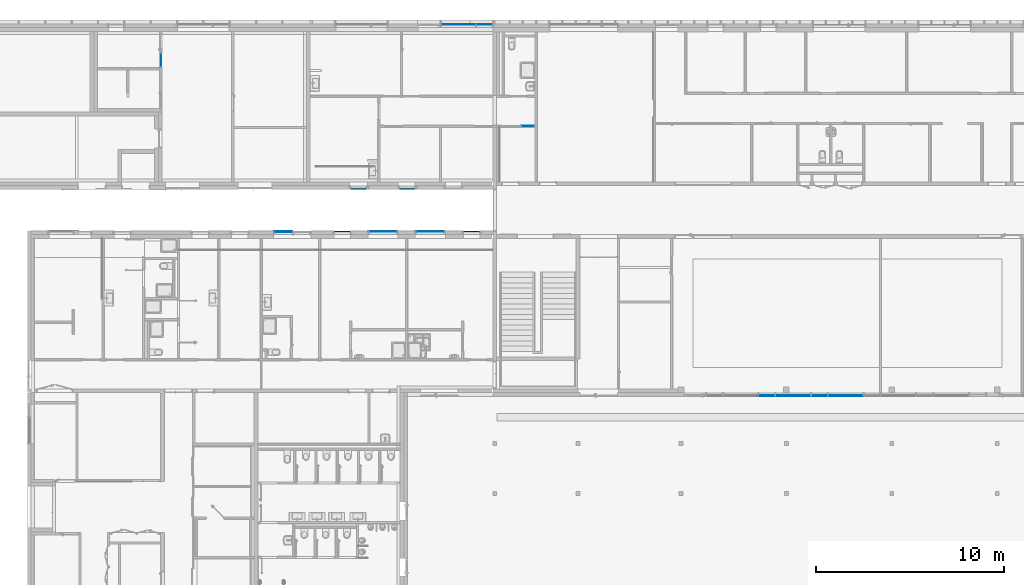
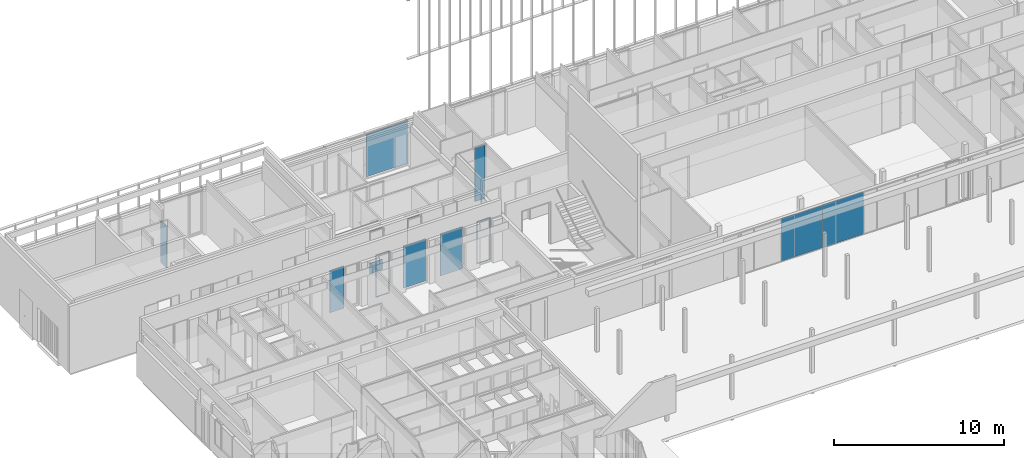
# One storey, part 61 of 240: 12 plates, 11 elements without a shape of their own.
"""IFC2X3 building model written with IfcOpenShell, lengths in centimetres."""

import ifcopenshell
import ifcopenshell.guid

model = None  # the IFC model being written
_history = None  # IfcOwnerHistory: only IFC2X3 demands one
_inside = {}  # id of a spatial element -> (the spatial element, [elements in it])
_under = {}  # id of a project, library or spatial element -> (it, [spatial elements below it])
_declared = {}  # id of a project -> (the project, [libraries it declares])
_typed = {}  # id of a type object -> (the type object, [elements of that type])
_made_of = {}  # id of a material, layer set ... -> (it, [elements and type objects made of it])


def new_model(schema):
    """Start an empty IFC model of exactly this schema.

    Asked for "IFC4X3", IfcOpenShell would pick the latest addendum, in which some entities
    have other attributes; the version numbers below select the first issue.
    IFC2X3 requires an IfcOwnerHistory on every rooted entity: one is made here for all.
    """
    global model, _history
    if schema == "IFC4X3":
        model = ifcopenshell.file(schema_version=(4, 3, 0, 0))
    else:
        model = ifcopenshell.file(schema=schema)
    _inside.clear()
    _under.clear()
    _declared.clear()
    _typed.clear()
    _made_of.clear()
    _history = None
    if model.schema == "IFC2X3":
        org = make("IfcOrganization", Name="unknown")
        user = make(
            "IfcPersonAndOrganization",
            ThePerson=make("IfcPerson", FamilyName="unknown"),
            TheOrganization=org,
        )
        app = make(
            "IfcApplication",
            ApplicationDeveloper=org,
            Version="unknown",
            ApplicationFullName="unknown",
            ApplicationIdentifier="unknown",
        )
        _history = make(
            "IfcOwnerHistory",
            OwningUser=user,
            OwningApplication=app,
            ChangeAction="ADDED",
            CreationDate=0,
        )
    return model


def make(cls, **values):
    """One entity of the class cls with the attributes given. An attribute that is None is left unset."""
    return model.create_entity(
        cls, **{name: value for name, value in values.items() if value is not None}
    )


def entity(cls, *values):
    """Any entity or typed value of the class cls, its attributes in the order of the schema. None: left unset."""
    e = model.create_entity(cls)
    for i, value in enumerate(values):
        if value is not None:
            e[i] = value
    return e


def rooted(cls, **values):
    """An entity with a GlobalId (a new one), such as an element, a storey or a relation."""
    return make(cls, GlobalId=ifcopenshell.guid.new(), OwnerHistory=_history, **values)


def si_unit(unit_type, name, prefix=None):
    """IfcSIUnit, for example si_unit("LENGTHUNIT", "METRE", prefix="MILLI")."""
    return make("IfcSIUnit", UnitType=unit_type, Prefix=prefix, Name=name)


def converted_unit(unit_type, name, factor, base, dimensions=None, offset=None):
    """IfcConversionBasedUnit, such as the inch: factor (a typed value) times the base unit."""
    return make(
        "IfcConversionBasedUnit"
        if offset is None
        else "IfcConversionBasedUnitWithOffset",
        ConversionOffset=offset,
        Dimensions=None
        if dimensions is None
        else entity("IfcDimensionalExponents", *dimensions),
        UnitType=unit_type,
        Name=name,
        ConversionFactor=make(
            "IfcMeasureWithUnit", ValueComponent=factor, UnitComponent=base
        ),
    )


def derived_unit(unit_type, elements):
    """IfcDerivedUnit: a product of units, each with its exponent."""
    return make(
        "IfcDerivedUnit",
        Elements=[
            make("IfcDerivedUnitElement", Unit=unit, Exponent=power)
            for unit, power in elements
        ],
        UnitType=unit_type,
    )


def assignment(units):
    """IfcUnitAssignment: the units of a project."""
    return None if units is None else make("IfcUnitAssignment", Units=units)


def point(xyz):
    """IfcCartesianPoint."""
    return None if xyz is None else make("IfcCartesianPoint", Coordinates=xyz)


def direction(xyz):
    """IfcDirection."""
    return None if xyz is None else make("IfcDirection", DirectionRatios=xyz)


def frame(location, z_axis=None, x_axis=None):
    """IfcAxis2Placement3D, a coordinate frame: its origin and axes. An axis left out is left unset."""
    return make(
        "IfcAxis2Placement3D",
        Location=point(location),
        Axis=direction(z_axis),
        RefDirection=direction(x_axis),
    )


def frame_2d(location, x_axis=None):
    """IfcAxis2Placement2D, a coordinate frame in the plane: its origin and x axis."""
    return make(
        "IfcAxis2Placement2D", Location=point(location), RefDirection=direction(x_axis)
    )


def origin():
    """The frame at (0, 0, 0) with its axes left unset."""
    return frame((0.0, 0.0, 0.0))


def origin_2d_with_axis():
    """The frame at (0, 0) in the plane with the x axis (1, 0) written out."""
    return frame_2d((0.0, 0.0), x_axis=(1.0, 0.0))


def place(relative_to, where):
    """IfcLocalPlacement: puts the frame where relative to a parent placement (None: the world)."""
    return make(
        "IfcLocalPlacement", PlacementRelTo=relative_to, RelativePlacement=where
    )


def context(
    kind, dimensions, precision=None, world=None, true_north=None, identifier=None
):
    """IfcGeometricRepresentationContext, for example the 3D "Model" context."""
    return make(
        "IfcGeometricRepresentationContext",
        ContextIdentifier=identifier,
        ContextType=kind,
        CoordinateSpaceDimension=dimensions,
        Precision=precision,
        WorldCoordinateSystem=world,
        TrueNorth=true_north,
    )


def subcontext(parent, identifier, kind, view, scale=None):
    """IfcGeometricRepresentationSubContext, for example "Body" below "Model"."""
    return make(
        "IfcGeometricRepresentationSubContext",
        ContextIdentifier=identifier,
        ContextType=kind,
        ParentContext=parent,
        TargetScale=scale,
        TargetView=view,
    )


def project(units=None, contexts=None):
    """IfcProject with its units and contexts."""
    return rooted(
        "IfcProject",
        Name="project",
        RepresentationContexts=contexts,
        UnitsInContext=assignment(units),
    )


def spatial(cls, under=None, at=None, **own):
    """A site, building, storey or space (cls), placed at a placement, below another one or the project."""
    s = rooted(cls, ObjectPlacement=at, **own)
    if under is not None:
        _under.setdefault(under.id(), (under, []))[1].append(s)
    return s


def polyline(points):
    """IfcPolyline through the points."""
    return make("IfcPolyline", Points=[point(p) for p in points])


def profile(cls, at=None, kind="AREA", **sizes):
    """A parametric profile (cls). Its sizes go by their IFC names, for example OverallWidth=200.0."""
    return make(cls, ProfileType=kind, Position=at, **sizes)


def rectangle(**sizes):
    """IfcRectangleProfileDef."""
    return profile("IfcRectangleProfileDef", **sizes)


def outline(outer, holes=None, kind="AREA"):
    """IfcArbitraryClosedProfileDef: a profile drawn as a closed curve; with holes, ...WithVoids."""
    if holes is None:
        return make("IfcArbitraryClosedProfileDef", ProfileType=kind, OuterCurve=outer)
    return make(
        "IfcArbitraryProfileDefWithVoids",
        ProfileType=kind,
        OuterCurve=outer,
        InnerCurves=holes,
    )


def extrude(swept, where, along, depth):
    """IfcExtrudedAreaSolid: the profile swept, set in the frame where, extruded along a direction by depth."""
    return make(
        "IfcExtrudedAreaSolid",
        SweptArea=swept,
        Position=where,
        ExtrudedDirection=direction(along),
        Depth=depth,
    )


def faces_of(points, faces, orient=None, outer=None):
    """IfcFace entities. A face is a list of loops; a loop is a list of indices into points, from 0.

    orient and outer hold one flag for each loop. By default every Orientation is true, the
    first loop of a face is its IfcFaceOuterBound and the others are IfcFaceBound.
    """
    made = []
    for i, loops in enumerate(faces):
        bounds = []
        for j, loop in enumerate(loops):
            is_outer = j == 0 if outer is None else outer[i][j]
            bounds.append(
                make(
                    "IfcFaceOuterBound" if is_outer else "IfcFaceBound",
                    Bound=make("IfcPolyLoop", Polygon=[points[k] for k in loop]),
                    Orientation=True if orient is None else orient[i][j],
                )
            )
        made.append(make("IfcFace", Bounds=bounds))
    return made


def faceted_brep(points, faces, orient=None, outer=None, voids=None):
    """IfcFacetedBrep: a solid bounded by flat faces; with voids (closed shells), ...WithVoids."""
    shared = [point(p) for p in points]
    hull = make("IfcClosedShell", CfsFaces=faces_of(shared, faces, orient, outer))
    if voids is None:
        return make("IfcFacetedBrep", Outer=hull)
    return make(
        "IfcFacetedBrepWithVoids",
        Outer=hull,
        Voids=[
            make(cls, CfsFaces=faces_of(shared, fs, o, b)) for cls, fs, o, b in voids
        ],
    )


def shape(context_of_items, identifier, shape_type, items):
    """IfcShapeRepresentation: the items that make up one representation, for example the "Body"."""
    return make(
        "IfcShapeRepresentation",
        ContextOfItems=context_of_items,
        RepresentationIdentifier=identifier,
        RepresentationType=shape_type,
        Items=items,
    )


def source(mapping_origin, context_of_items, identifier, shape_type, items):
    """IfcRepresentationMap: a shape defined once, which mapped items show again and again."""
    return make(
        "IfcRepresentationMap",
        MappingOrigin=mapping_origin,
        MappedRepresentation=shape(context_of_items, identifier, shape_type, items),
    )


def transform(
    local_origin,
    x_axis=None,
    y_axis=None,
    z_axis=None,
    scale=None,
    scale2=None,
    scale3=None,
    uniform=True,
):
    """IfcCartesianTransformationOperator3D, or its non-uniform kind. x_axis, y_axis, z_axis: its Axis1, 2, 3."""
    if uniform:
        return make(
            "IfcCartesianTransformationOperator3D",
            Axis1=direction(x_axis),
            Axis2=direction(y_axis),
            LocalOrigin=point(local_origin),
            Scale=scale,
            Axis3=direction(z_axis),
        )
    return make(
        "IfcCartesianTransformationOperator3DnonUniform",
        Axis1=direction(x_axis),
        Axis2=direction(y_axis),
        LocalOrigin=point(local_origin),
        Scale=scale,
        Axis3=direction(z_axis),
        Scale2=scale2,
        Scale3=scale3,
    )


def mapped(mapping_source, mapping_target):
    """IfcMappedItem: shows the shape of a source again, moved by a transform."""
    return make(
        "IfcMappedItem", MappingSource=mapping_source, MappingTarget=mapping_target
    )


def material(Name=None, Category=None):
    """IfcMaterial."""
    return make("IfcMaterial", Name=Name, Category=Category)


def layer(
    of_material, thickness, ventilated=None, Name=None, Category=None, Priority=None
):
    """IfcMaterialLayer: one layer of a wall or slab, of a material (None: an air gap)."""
    return make(
        "IfcMaterialLayer",
        Material=of_material,
        LayerThickness=thickness,
        IsVentilated=ventilated,
        Name=Name,
        Category=Category,
        Priority=Priority,
    )


def layer_set(layers, Name=None):
    """IfcMaterialLayerSet."""
    return make("IfcMaterialLayerSet", MaterialLayers=layers, LayerSetName=Name)


def layer_usage(for_layer_set, set_direction, sense, offset, extent=None):
    """IfcMaterialLayerSetUsage: how a layer set lies in its element."""
    return make(
        "IfcMaterialLayerSetUsage",
        ForLayerSet=for_layer_set,
        LayerSetDirection=set_direction,
        DirectionSense=sense,
        OffsetFromReferenceLine=offset,
        ReferenceExtent=extent,
    )


def made_of(thing, what):
    """Note that an element or type object is made of a material, layer set ...; save() writes the relation."""
    if what is not None:
        _made_of.setdefault(what.id(), (what, []))[1].append(thing)
    return thing


def type_object(cls, material=None, **own):
    """A type object (cls), such as IfcWallType, which elements share."""
    return made_of(rooted(cls, **own), material)


def type_shapes(of_type, sources):
    """Give a type object the sources (RepresentationMaps) that its elements show as mapped items."""
    of_type.RepresentationMaps = sources


def element(
    cls,
    number,
    at=None,
    inside=None,
    cuts=None,
    type_object=None,
    material=None,
    context=None,
    identifier="Body",
    shape_type=None,
    held_by="IfcProductDefinitionShape",
    body=None,
    shapes=None,
    **own,
):
    """One element of the class cls, such as IfcWall. Its Tag is "e" and its number.

    at: its placement. inside: the storey or other place that contains it. cuts: it is an
    opening in that element (IfcRelVoidsElement). A single representation is given by context,
    identifier, shape_type and body (its items); several are given by shapes. held_by: the class
    of the entity that holds the representations. save() writes the other relations.
    """
    e = rooted(cls, Tag="e%d" % number, ObjectPlacement=at, **own)
    if body is not None:
        shapes = [shape(context, identifier, shape_type, body)]
    if shapes is not None:
        e.Representation = make(held_by, Representations=shapes)
    if inside is not None:
        _inside.setdefault(inside.id(), (inside, []))[1].append(e)
    if cuts is not None:
        rooted(
            "IfcRelVoidsElement", RelatingBuildingElement=cuts, RelatedOpeningElement=e
        )
    if type_object is not None:
        _typed.setdefault(type_object.id(), (type_object, []))[1].append(e)
    return made_of(e, material)


def aggregate(whole, parts):
    """IfcRelAggregates: a whole, such as a stair, and the parts it consists of."""
    return rooted("IfcRelAggregates", RelatingObject=whole, RelatedObjects=parts)


def save(model, path):
    """Write the relations noted so far, then the file.

    IfcRelAggregates (storeys below a building ...), IfcRelContainedInSpatialStructure (elements
    in a storey), IfcRelDefinesByType, IfcRelAssociatesMaterial and IfcRelDeclares: one each for
    every whole, place, type object, material and project.
    """
    for whole, parts in _under.values():
        aggregate(whole, parts)
    for where, things in _inside.values():
        rooted(
            "IfcRelContainedInSpatialStructure",
            RelatedElements=things,
            RelatingStructure=where,
        )
    for kind, things in _typed.values():
        rooted("IfcRelDefinesByType", RelatedObjects=things, RelatingType=kind)
    for what, things in _made_of.values():
        rooted("IfcRelAssociatesMaterial", RelatedObjects=things, RelatingMaterial=what)
    for by, libraries in _declared.values():
        rooted("IfcRelDeclares", RelatingContext=by, RelatedDefinitions=libraries)
    model.write(path)


model = new_model("IFC2X3")

# Units and contexts
model_context = context("Model", 3, precision=0.001, world=origin(), true_north=direction((6.12303176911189e-17, 1.0)))
body_context = subcontext(model_context, "Body", "Model", "MODEL_VIEW")
ifc_project = project(units=[si_unit("LENGTHUNIT", "METRE", prefix="CENTI"), si_unit("AREAUNIT", "SQUARE_METRE"), si_unit("VOLUMEUNIT", "CUBIC_METRE"), converted_unit("PLANEANGLEUNIT", "DEGREE", entity("IfcRatioMeasure", 0.0174532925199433), si_unit("PLANEANGLEUNIT", "RADIAN"), dimensions=[0, 0, 0, 0, 0, 0, 0]), si_unit("MASSUNIT", "GRAM", prefix="KILO"), derived_unit("MASSDENSITYUNIT", [(si_unit("MASSUNIT", "GRAM", prefix="KILO"), 1), (si_unit("LENGTHUNIT", "METRE"), -3)]), si_unit("TIMEUNIT", "SECOND"), si_unit("FREQUENCYUNIT", "HERTZ"), si_unit("THERMODYNAMICTEMPERATUREUNIT", "DEGREE_CELSIUS"), derived_unit("THERMALTRANSMITTANCEUNIT", [(si_unit("MASSUNIT", "GRAM", prefix="KILO"), 1), (si_unit("THERMODYNAMICTEMPERATUREUNIT", "KELVIN"), -1), (si_unit("TIMEUNIT", "SECOND"), -3)]), derived_unit("VOLUMETRICFLOWRATEUNIT", [(si_unit("LENGTHUNIT", "METRE"), 3), (si_unit("TIMEUNIT", "SECOND"), -1)]), si_unit("ELECTRICCURRENTUNIT", "AMPERE"), si_unit("ELECTRICVOLTAGEUNIT", "VOLT"), si_unit("POWERUNIT", "WATT"), si_unit("FORCEUNIT", "NEWTON", prefix="KILO"), si_unit("ILLUMINANCEUNIT", "LUX"), si_unit("LUMINOUSFLUXUNIT", "LUMEN"), si_unit("LUMINOUSINTENSITYUNIT", "CANDELA"), derived_unit("USERDEFINED", [(si_unit("MASSUNIT", "GRAM", prefix="KILO"), -1), (si_unit("LENGTHUNIT", "METRE"), -2), (si_unit("TIMEUNIT", "SECOND"), 3), (si_unit("LUMINOUSFLUXUNIT", "LUMEN"), 1)]), derived_unit("LINEARVELOCITYUNIT", [(si_unit("LENGTHUNIT", "METRE"), 1), (si_unit("TIMEUNIT", "SECOND"), -1)]), si_unit("PRESSUREUNIT", "PASCAL"), derived_unit("USERDEFINED", [(si_unit("LENGTHUNIT", "METRE"), -2), (si_unit("MASSUNIT", "GRAM", prefix="KILO"), 1), (si_unit("TIMEUNIT", "SECOND"), -2)])], contexts=[model_context])

# Site, building, storey
site_placement = place(None, frame((-2781.94577612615, 7442.24238424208, 0.0)))
site = spatial("IfcSite", under=ifc_project, at=site_placement, Name="Default", CompositionType="ELEMENT")
building_placement = place(site_placement, origin())
building = spatial("IfcBuilding", under=site, at=building_placement, CompositionType="ELEMENT")
storey_placement = place(building_placement, origin())
storey = spatial("IfcBuildingStorey", under=building, at=storey_placement, Name="N00 - COO", CompositionType="ELEMENT", Elevation=0.0)

# Curtain wall, plates
curtain_wall_type_1 = type_object("IfcCurtainWallType", Name="Mur-rideau:07 - mur rideau trame 280 cm", PredefinedType="NOTDEFINED")
curtain_wall_1_placement = place(building_placement, origin())
curtain_wall_1 = element("IfcCurtainWall", 1, at=curtain_wall_1_placement, inside=storey, type_object=curtain_wall_type_1, Name="Mur-rideau:07 - mur rideau trame 280 cm", ObjectType="Mur-rideau:07 - mur rideau trame 280 cm")
ifc_material = material(Name="Verre")
ifc_layer = layer(ifc_material, 4.0)
ifc_layer_set = layer_set([ifc_layer], Name="Panneau système:Vitré")
plate_type_1 = type_object("IfcPlateType", Name="Vitré", PredefinedType="CURTAIN_PANEL", material=ifc_layer_set)
shared_shape_1 = source(origin(), body_context, "Body", "Brep", [
    faceted_brep([(-138.2625, -2.0, 1.73749999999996), (140.0, -2.0, 1.73749999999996), (140.0, -2.0, 304.5), (-138.2625, -2.0, 304.5), (-138.2625, 2.0, 1.73749999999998), (-138.2625, 2.0, 304.5), (140.0, 2.0, 304.5), (140.0, 2.0, 1.73749999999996), (-48.2624999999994, 2.0, 0.0), (-48.2624999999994, 2.0, 307.7375), (-140.0, 2.0, 307.7375), (-140.0, 2.0, 0.0), (-140.0, -2.0, 0.0), (-48.2624999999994, -2.0, 0.0), (-140.0, -2.0, 307.7375), (-48.2624999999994, -2.0, 307.7375)], [[[0, 1, 2, 3]], [[4, 5, 6, 7], [8, 9, 10, 11]], [[1, 0, 4, 7]], [[2, 1, 7, 6]], [[3, 2, 6, 5]], [[0, 3, 5, 4]], [[12, 13, 8, 11]], [[14, 12, 11, 10]], [[15, 14, 10, 9]], [[13, 15, 9, 8]], [[13, 12, 14, 15]]]),
])
type_shapes(plate_type_1, [shared_shape_1])
plate_1_placement = place(curtain_wall_1_placement, frame((-6880.36862760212, -1946.27903364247, 2.38125000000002)))
plate_1 = element("IfcPlate", 2, at=plate_1_placement, type_object=plate_type_1, material=ifc_material, Name="Panneau système:Vitré", ObjectType="Panneau système:Vitré", context=body_context, shape_type="MappedRepresentation", body=[
    mapped(shared_shape_1, transform((0.0, 0.0, 0.0), scale=1.0)),
])
plate_2_placement = place(curtain_wall_1_placement, frame((-6600.36862760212, -1946.27903364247, 2.38125000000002)))
plate_2 = element("IfcPlate", 3, at=plate_2_placement, type_object=plate_type_1, material=ifc_material, Name="Panneau système:Vitré", ObjectType="Panneau système:Vitré", context=body_context, shape_type="MappedRepresentation", body=[
    mapped(shared_shape_1, transform((0.0, 0.0, 0.0), scale=1.0)),
])
aggregate(curtain_wall_1, [plate_1, plate_2])

# Curtain wall, plate
curtain_wall_type_2 = type_object("IfcCurtainWallType", Name="Mur-rideau:07 - mur rideau trame 160cm", PredefinedType="NOTDEFINED")
curtain_wall_2_placement = place(building_placement, origin())
curtain_wall_2 = element("IfcCurtainWall", 4, at=curtain_wall_2_placement, inside=storey, type_object=curtain_wall_type_2, Name="Mur-rideau:07 - mur rideau trame 160cm", ObjectType="Mur-rideau:07 - mur rideau trame 160cm")
ifc_layer_usage_1 = layer_usage(ifc_layer_set, "AXIS3", "POSITIVE", 0.0)
plate_type_2 = type_object("IfcPlateType", Name="Vitré", PredefinedType="CURTAIN_PANEL", material=ifc_layer_set)
shared_shape_2 = source(origin(), body_context, "Body", "SweptSolid", [
    extrude(rectangle(XDim=4.0, YDim=151.7625, at=origin_2d_with_axis()), frame((0.0, 0.0, 0.0), z_axis=(0.0, 0.0, 1.0), x_axis=(0.0, 1.0, 0.0)), (0.0, 0.0, 1.0), 304.2625),
])
type_shapes(plate_type_2, [shared_shape_2])
plate_3_placement = place(curtain_wall_2_placement, frame((-8761.99987766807, -1073.69999990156, 4.11874999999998), z_axis=(0.0, 0.0, 1.0), x_axis=(-1.0, 0.0, 0.0)))
plate_3 = element("IfcPlate", 5, at=plate_3_placement, type_object=plate_type_2, material=ifc_layer_usage_1, Name="Panneau système:Vitré", ObjectType="Panneau système:Vitré", context=body_context, shape_type="MappedRepresentation", body=[
    mapped(shared_shape_2, transform((0.0, 0.0, 0.0), scale=1.0)),
])
aggregate(curtain_wall_2, [plate_3])

curtain_wall_3_placement = place(building_placement, origin())
curtain_wall_3 = element("IfcCurtainWall", 6, at=curtain_wall_3_placement, inside=storey, type_object=curtain_wall_type_2, Name="Mur-rideau:07 - mur rideau trame 160cm", ObjectType="Mur-rideau:07 - mur rideau trame 160cm")
ifc_layer_usage_2 = layer_usage(ifc_layer_set, "AXIS3", "POSITIVE", 0.0)
plate_4_placement = place(curtain_wall_3_placement, frame((-9011.99987766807, -1073.69999990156, 4.11874999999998), z_axis=(0.0, 0.0, 1.0), x_axis=(-1.0, 0.0, 0.0)))
plate_4 = element("IfcPlate", 7, at=plate_4_placement, type_object=plate_type_2, material=ifc_layer_usage_2, Name="Panneau système:Vitré", ObjectType="Panneau système:Vitré", context=body_context, shape_type="MappedRepresentation", body=[
    mapped(shared_shape_2, transform((0.0, 0.0, 0.0), scale=1.0)),
])
aggregate(curtain_wall_3, [plate_4])

curtain_wall_type_3 = type_object("IfcCurtainWallType", Name="Mur-rideau:07 - mur rideau trame 100cm", PredefinedType="NOTDEFINED")
curtain_wall_4_placement = place(building_placement, origin())
curtain_wall_4 = element("IfcCurtainWall", 8, at=curtain_wall_4_placement, inside=storey, type_object=curtain_wall_type_3, Name="Mur-rideau:07 - mur rideau trame 100cm", ObjectType="Mur-rideau:07 - mur rideau trame 100cm")
ifc_layer_usage_3 = layer_usage(ifc_layer_set, "AXIS3", "POSITIVE", 0.0)
plate_type_3 = type_object("IfcPlateType", Name="Vitré", PredefinedType="CURTAIN_PANEL", material=ifc_layer_set)
shared_shape_3 = source(origin(), body_context, "Body", "SweptSolid", [
    extrude(rectangle(XDim=4.0, YDim=95.8812500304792, at=origin_2d_with_axis()), frame((0.0, 0.0, 0.0), z_axis=(0.0, 0.0, 1.0), x_axis=(0.0, 1.0, 0.0)), (0.0, 0.0, 1.0), 304.2625),
])
type_shapes(plate_type_3, [shared_shape_3])
plate_5_placement = place(curtain_wall_4_placement, frame((-9542.44050265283, -1074.89999990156, 4.11874999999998)))
plate_5 = element("IfcPlate", 9, at=plate_5_placement, type_object=plate_type_3, material=ifc_layer_usage_3, Name="Panneau système:Vitré", ObjectType="Panneau système:Vitré", context=body_context, shape_type="MappedRepresentation", body=[
    mapped(shared_shape_3, transform((0.0, 0.0, 0.0), scale=1.0)),
])
aggregate(curtain_wall_4, [plate_5])

curtain_wall_type_4 = type_object("IfcCurtainWallType", PredefinedType="NOTDEFINED")
curtain_wall_5_placement = place(building_placement, origin())
curtain_wall_5 = element("IfcCurtainWall", 10, at=curtain_wall_5_placement, inside=storey, type_object=curtain_wall_type_4)
ifc_layer_usage_4 = layer_usage(ifc_layer_set, "AXIS3", "POSITIVE", 0.0)
plate_type_4 = type_object("IfcPlateType", Name="Vitré", PredefinedType="CURTAIN_PANEL", material=ifc_layer_set)
shared_shape_4 = source(origin(), body_context, "Body", "SweptSolid", [
    extrude(rectangle(XDim=4.0, YDim=69.7000000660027, at=origin_2d_with_axis()), frame((0.0, 0.0, 0.0), z_axis=(0.0, 0.0, 1.0), x_axis=(0.0, 1.0, 0.0)), (0.0, 0.0, 1.0), 386.0),
])
type_shapes(plate_type_4, [shared_shape_4])
plate_6_placement = place(curtain_wall_5_placement, frame((-8244.34987763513, -515.0, 5.0)))
plate_6 = element("IfcPlate", 11, at=plate_6_placement, type_object=plate_type_4, material=ifc_layer_usage_4, Name="Panneau système:Vitré", ObjectType="Panneau système:Vitré", context=body_context, shape_type="MappedRepresentation", body=[
    mapped(shared_shape_4, transform((0.0, 0.0, 0.0), scale=1.0)),
])
aggregate(curtain_wall_5, [plate_6])

curtain_wall_6_placement = place(building_placement, origin())
curtain_wall_6 = element("IfcCurtainWall", 12, at=curtain_wall_6_placement, inside=storey, type_object=curtain_wall_type_1, Name="Mur-rideau:07 - mur rideau trame 280 cm", ObjectType="Mur-rideau:07 - mur rideau trame 280 cm")
ifc_layer_usage_5 = layer_usage(ifc_layer_set, "AXIS3", "POSITIVE", 0.0)
plate_type_5 = type_object("IfcPlateType", Name="Vitré", PredefinedType="CURTAIN_PANEL", material=ifc_layer_set)
shared_shape_5 = source(origin(), body_context, "Body", "SweptSolid", [
    extrude(outline(polyline([(-152.13125, -45.8812499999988), (152.13125, -45.8812499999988), (152.13125, 45.8812499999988), (-152.13125, 45.8812499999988), (-152.13125, -45.8812499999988)]), holes=[polyline([(-149.75, 43.4999999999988), (149.75, 43.4999999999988), (149.75, -43.5000000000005), (-149.75, -43.5000000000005), (-149.75, 43.4999999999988)])]), frame((0.0, -2.0, 152.13125), z_axis=(0.0, 1.0, 0.0), x_axis=(0.0, 0.0, 1.0)), (0.0, 0.0, 1.0), 4.0),
])
type_shapes(plate_type_5, [shared_shape_5])
plate_7_placement = place(curtain_wall_6_placement, frame((-8541.99987766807, -1073.69999990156, 4.11874999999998)))
plate_7 = element("IfcPlate", 13, at=plate_7_placement, type_object=plate_type_5, material=ifc_layer_usage_5, Name="Panneau système:Vitré", ObjectType="Panneau système:Vitré", context=body_context, shape_type="MappedRepresentation", body=[
    mapped(shared_shape_5, transform((0.0, 0.0, 0.0), scale=1.0)),
])
aggregate(curtain_wall_6, [plate_7])

curtain_wall_7_placement = place(storey_placement, origin())
curtain_wall_7 = element("IfcCurtainWall", 14, at=curtain_wall_7_placement, inside=storey, type_object=curtain_wall_type_3, Name="Mur-rideau:07 - mur rideau trame 100cm", ObjectType="Mur-rideau:07 - mur rideau trame 100cm")
ifc_layer_usage_6 = layer_usage(ifc_layer_set, "AXIS3", "POSITIVE", 0.0)
plate_8_placement = place(curtain_wall_7_placement, frame((-9229.49987766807, -1073.69999990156, 4.11874999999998)))
plate_8 = element("IfcPlate", 15, at=plate_8_placement, type_object=plate_type_5, material=ifc_layer_usage_6, Name="Panneau système:Vitré", ObjectType="Panneau système:Vitré", context=body_context, shape_type="MappedRepresentation", body=[
    mapped(shared_shape_5, transform((0.0, 0.0, 0.0), scale=1.0)),
])
aggregate(curtain_wall_7, [plate_8])

curtain_wall_type_5 = type_object("IfcCurtainWallType", Name="Mur-rideau:07 - mur rideau trame 90 cm", PredefinedType="NOTDEFINED")
curtain_wall_8_placement = place(storey_placement, origin())
curtain_wall_8 = element("IfcCurtainWall", 16, at=curtain_wall_8_placement, inside=storey, type_object=curtain_wall_type_5, Name="Mur-rideau:07 - mur rideau trame 90 cm", ObjectType="Mur-rideau:07 - mur rideau trame 90 cm")
plate_type_6 = type_object("IfcPlateType", Name="Vitré", PredefinedType="CURTAIN_PANEL", material=ifc_layer_set)
shared_shape_6 = source(origin(), body_context, "Body", "Brep", [
    faceted_brep([(-42.8545992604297, -2.0, 0.0), (43.02665077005, -2.0, 0.0), (43.02665077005, -2.0, 75.8812499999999), (-43.0266507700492, -2.0, 75.8812499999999), (-43.0266507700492, -2.0, 304.0), (42.1579007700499, -2.0, 304.0), (42.1579007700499, -2.0, 306.881249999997), (-42.8545992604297, -2.0, 306.881249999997), (-42.8545992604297, 2.0, 0.0), (-42.8545992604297, 2.0, 306.881249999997), (42.1579007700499, 2.0, 306.881249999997), (42.1579007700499, 2.0, 304.0), (-43.0266507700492, 2.0, 304.0), (-43.0266507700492, 2.0, 75.8812499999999), (43.02665077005, 2.0, 75.8812499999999), (43.02665077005, 2.0, 0.0)], [[[0, 1, 2, 3, 4, 5, 6, 7]], [[8, 9, 10, 11, 12, 13, 14, 15]], [[1, 0, 8, 15]], [[2, 1, 15, 14]], [[3, 2, 14, 13]], [[4, 3, 13, 12]], [[5, 4, 12, 11]], [[6, 5, 11, 10]], [[7, 6, 10, 9]], [[0, 7, 9, 8]]]),
])
type_shapes(plate_type_6, [shared_shape_6])
plate_9_placement = place(curtain_wall_8_placement, frame((-9144.02652834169, -846.34850098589, 4.11874999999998)))
plate_9 = element("IfcPlate", 17, at=plate_9_placement, type_object=plate_type_6, material=ifc_material, Name="Panneau système:Vitré", ObjectType="Panneau système:Vitré", context=body_context, shape_type="MappedRepresentation", body=[
    mapped(shared_shape_6, transform((0.0, 0.0, 0.0), scale=1.0)),
])
aggregate(curtain_wall_8, [plate_9])

curtain_wall_9_placement = place(storey_placement, origin())
curtain_wall_9 = element("IfcCurtainWall", 18, at=curtain_wall_9_placement, inside=storey, type_object=curtain_wall_type_5, Name="Mur-rideau:07 - mur rideau trame 90 cm", ObjectType="Mur-rideau:07 - mur rideau trame 90 cm")
plate_10_placement = place(curtain_wall_9_placement, frame((-8885.02652840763, -846.348500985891, 4.11874999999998)))
plate_10 = element("IfcPlate", 19, at=plate_10_placement, type_object=plate_type_6, material=ifc_material, Name="Panneau système:Vitré", ObjectType="Panneau système:Vitré", context=body_context, shape_type="MappedRepresentation", body=[
    mapped(shared_shape_6, transform((0.0, 0.0, 0.0), scale=1.0)),
])
aggregate(curtain_wall_9, [plate_10])

curtain_wall_10_placement = place(building_placement, origin())
curtain_wall_10 = element("IfcCurtainWall", 20, at=curtain_wall_10_placement, inside=storey, type_object=curtain_wall_type_1, Name="Mur-rideau:07 - mur rideau trame 280 cm", ObjectType="Mur-rideau:07 - mur rideau trame 280 cm")
ifc_layer_usage_7 = layer_usage(ifc_layer_set, "AXIS3", "POSITIVE", 0.0)
plate_type_7 = type_object("IfcPlateType", Name="Vitré", PredefinedType="CURTAIN_PANEL", material=ifc_layer_set)
shared_shape_7 = source(origin(), body_context, "Body", "SweptSolid", [
    extrude(rectangle(XDim=91.7375000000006, YDim=4.0, at=origin_2d_with_axis()), frame((93.6312499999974, 0.0, 0.0)), (0.0, 0.0, 1.0), 307.7375),
    extrude(rectangle(XDim=4.0, YDim=275.01250003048, at=origin_2d_with_axis()), frame((-1.99374998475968, 0.0, 1.73749999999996), z_axis=(0.0, 0.0, 1.0), x_axis=(0.0, 1.0, 0.0)), (0.0, 0.0, 1.0), 304.7625),
])
type_shapes(plate_type_7, [shared_shape_7])
plate_11_placement = place(curtain_wall_10_placement, frame((-8566.63112766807, 26.300000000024, 2.38125000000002)))
plate_11 = element("IfcPlate", 21, at=plate_11_placement, type_object=plate_type_7, material=ifc_layer_usage_7, Name="Panneau système:Vitré", ObjectType="Panneau système:Vitré", context=body_context, shape_type="MappedRepresentation", body=[
    mapped(shared_shape_7, transform((0.0, 0.0, 0.0), scale=1.0)),
])
aggregate(curtain_wall_10, [plate_11])

curtain_wall_type_6 = type_object("IfcCurtainWallType", Name="Mur-rideau:07 - mur rideau vitrage sans recoupement 10cm", PredefinedType="NOTDEFINED")
curtain_wall_11_placement = place(building_placement, origin())
curtain_wall_11 = element("IfcCurtainWall", 22, at=curtain_wall_11_placement, inside=storey, type_object=curtain_wall_type_6, Name="Mur-rideau:07 - mur rideau vitrage sans recoupement 10cm", ObjectType="Mur-rideau:07 - mur rideau vitrage sans recoupement 10cm")
ifc_layer_usage_8 = layer_usage(ifc_layer_set, "AXIS3", "POSITIVE", 0.0)
plate_type_8 = type_object("IfcPlateType", Name="Vitré", PredefinedType="CURTAIN_PANEL", material=ifc_layer_set)
shared_shape_8 = source(origin(), body_context, "Body", "SweptSolid", [
    extrude(rectangle(XDim=4.0, YDim=71.9999999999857, at=origin_2d_with_axis()), frame((0.0, 0.0, 0.0), z_axis=(0.0, 0.0, 1.0), x_axis=(0.0, 1.0, 0.0)), (0.0, 0.0, 1.0), 303.0),
])
type_shapes(plate_type_8, [shared_shape_8])
plate_12_placement = place(curtain_wall_11_placement, frame((-10192.4998776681, -163.0, 5.0), z_axis=(0.0, 0.0, 1.0), x_axis=(0.0, -1.0, 0.0)))
plate_12 = element("IfcPlate", 23, at=plate_12_placement, type_object=plate_type_8, material=ifc_layer_usage_8, Name="Panneau système:Vitré", ObjectType="Panneau système:Vitré", context=body_context, shape_type="MappedRepresentation", body=[
    mapped(shared_shape_8, transform((0.0, 0.0, 0.0), scale=1.0)),
])
aggregate(curtain_wall_11, [plate_12])

save(model, "model.ifc")
